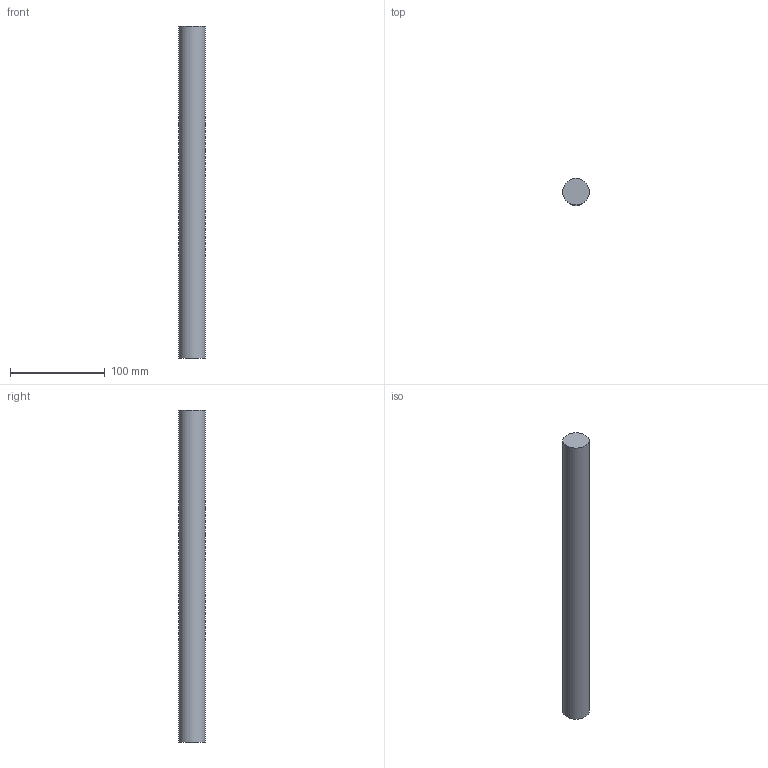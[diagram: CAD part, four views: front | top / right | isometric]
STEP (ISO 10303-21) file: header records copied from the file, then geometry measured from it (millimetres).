
FILE_DESCRIPTION(('Open CASCADE Model'),'2;1');
FILE_NAME('Open CASCADE Shape Model','2026-03-30T20:16:05',('Author'),( 'Open CASCADE'),'Open CASCADE STEP processor 7.8','Open CASCADE 7.8' ,'Unknown');
FILE_SCHEMA(('AUTOMOTIVE_DESIGN { 1 0 10303 214 1 1 1 1 }'));
Length unit declared in the file: millimetre
Products named in the file (1): Open CASCADE STEP translator 7.8 11
Bounding box: 28 x 28 x 350 mm (x, y, z)
Volume: 215513.3 mm3; surface area: 32019.1 mm2
Topology: 1 solids, 1 shells, 3 faces, 3 edges, 2 vertices
Faces by surface type: plane 2, cylinder 1
Full cylindrical faces by diameter (mm): 28 x1
Entity records: 108 total; most frequent: DIRECTION 19, CARTESIAN_POINT 15, AXIS2_PLACEMENT_3D 6, ORIENTED_EDGE 6, PCURVE 6, DEFINITIONAL_REPRESENTATION 6, LINE 5, VECTOR 5
